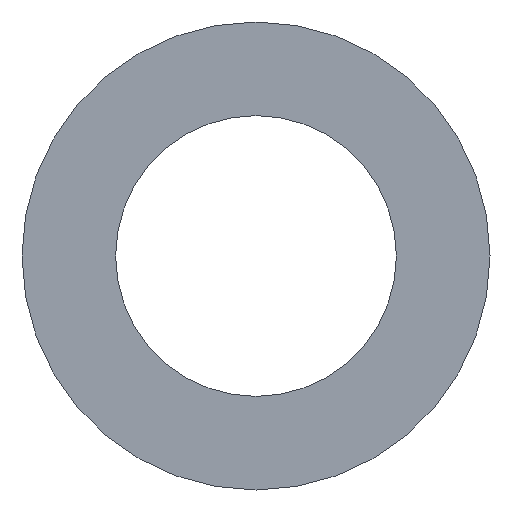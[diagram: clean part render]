
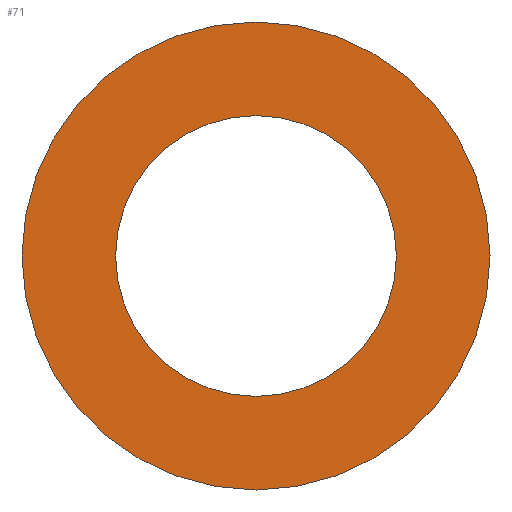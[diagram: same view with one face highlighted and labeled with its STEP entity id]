
A CAD part, front view. The second image highlights one B-rep face of the part: STEP entity #71.
In plain terms, the highlighted planar face has unit normal (0, -1, 0).
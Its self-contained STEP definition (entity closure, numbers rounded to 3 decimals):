
#5 = DIRECTION ( 'NONE',  ( 0., 0., 1. ) ) ;
#9 = CIRCLE ( 'NONE', #121, 1.5 ) ;
#10 = VERTEX_POINT ( 'NONE', #122 ) ;
#11 = EDGE_LOOP ( 'NONE', ( #130, #115 ) ) ;
#15 = CARTESIAN_POINT ( 'NONE',  ( 0., 0., 0. ) ) ;
#24 = ORIENTED_EDGE ( 'NONE', *, *, #30, .F. ) ;
#25 = VERTEX_POINT ( 'NONE', #101 ) ;
#30 = EDGE_CURVE ( 'NONE', #10, #89, #155, .T. ) ;
#32 = DIRECTION ( 'NONE',  ( 0., 0., 1. ) ) ;
#38 = EDGE_CURVE ( 'NONE', #89, #10, #124, .T. ) ;
#45 = DIRECTION ( 'NONE',  ( 0., 1., 0. ) ) ;
#47 = AXIS2_PLACEMENT_3D ( 'NONE', #119, #132, #32 ) ;
#55 = FACE_OUTER_BOUND ( 'NONE', #90, .T. ) ;
#56 = AXIS2_PLACEMENT_3D ( 'NONE', #15, #104, #88 ) ;
#64 = EDGE_CURVE ( 'NONE', #25, #83, #67, .T. ) ;
#67 = CIRCLE ( 'NONE', #81, 1.5 ) ;
#71 = ADVANCED_FACE ( 'NONE', ( #120, #55 ), #186, .F. ) ;
#81 = AXIS2_PLACEMENT_3D ( 'NONE', #183, #45, #167 ) ;
#83 = VERTEX_POINT ( 'NONE', #153 ) ;
#88 = DIRECTION ( 'NONE',  ( 0., 0., 1. ) ) ;
#89 = VERTEX_POINT ( 'NONE', #136 ) ;
#90 = EDGE_LOOP ( 'NONE', ( #24, #144 ) ) ;
#101 = CARTESIAN_POINT ( 'NONE',  ( 0., 0., -1.5 ) ) ;
#104 = DIRECTION ( 'NONE',  ( 0., 1., 0. ) ) ;
#115 = ORIENTED_EDGE ( 'NONE', *, *, #64, .T. ) ;
#117 = AXIS2_PLACEMENT_3D ( 'NONE', #169, #199, #163 ) ;
#119 = CARTESIAN_POINT ( 'NONE',  ( 0., 0., 0. ) ) ;
#120 = FACE_BOUND ( 'NONE', #11, .T. ) ;
#121 = AXIS2_PLACEMENT_3D ( 'NONE', #156, #139, #5 ) ;
#122 = CARTESIAN_POINT ( 'NONE',  ( 0., 0., -2.5 ) ) ;
#124 = CIRCLE ( 'NONE', #56, 2.5 ) ;
#130 = ORIENTED_EDGE ( 'NONE', *, *, #164, .T. ) ;
#132 = DIRECTION ( 'NONE',  ( 0., 1., 0. ) ) ;
#136 = CARTESIAN_POINT ( 'NONE',  ( 0., 0., 2.5 ) ) ;
#139 = DIRECTION ( 'NONE',  ( 0., 1., 0. ) ) ;
#144 = ORIENTED_EDGE ( 'NONE', *, *, #38, .F. ) ;
#153 = CARTESIAN_POINT ( 'NONE',  ( 0., 0., 1.5 ) ) ;
#155 = CIRCLE ( 'NONE', #47, 2.5 ) ;
#156 = CARTESIAN_POINT ( 'NONE',  ( 0., 0., 0. ) ) ;
#163 = DIRECTION ( 'NONE',  ( 0., 0., 1. ) ) ;
#164 = EDGE_CURVE ( 'NONE', #83, #25, #9, .T. ) ;
#167 = DIRECTION ( 'NONE',  ( 0., 0., 1. ) ) ;
#169 = CARTESIAN_POINT ( 'NONE',  ( 0., 0., 0. ) ) ;
#183 = CARTESIAN_POINT ( 'NONE',  ( 0., 0., 0. ) ) ;
#186 = PLANE ( 'NONE',  #117 ) ;
#199 = DIRECTION ( 'NONE',  ( 0., 1., 0. ) ) ;
